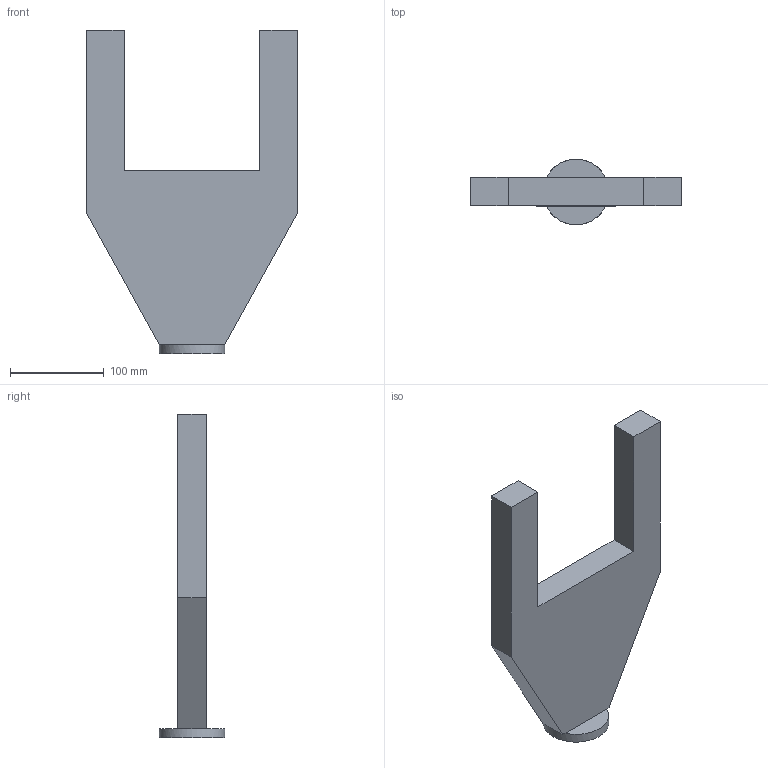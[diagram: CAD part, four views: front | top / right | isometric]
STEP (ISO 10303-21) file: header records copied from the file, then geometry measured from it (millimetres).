
FILE_DESCRIPTION (( 'STEP AP214' ), '1' );
FILE_NAME ('Tool.STEP', '2024-06-04T09:18:13', ( '' ), ( '' ), 'SwSTEP 2.0', 'SolidWorks 2020', '' );
FILE_SCHEMA (( 'AUTOMOTIVE_DESIGN' ));
Length unit declared in the file: millimetre
Products named in the file (1): Tool
Bounding box: 225 x 70 x 346 mm (x, y, z)
Volume: 1328484.5 mm3; surface area: 131039.6 mm2
Topology: 1 solids, 1 shells, 19 faces, 44 edges, 27 vertices
Faces by surface type: plane 18, cylinder 1
Full cylindrical faces by diameter (mm): 70 x1
Entity records: 558 total; most frequent: CARTESIAN_POINT 90, DIRECTION 90, ORIENTED_EDGE 86, EDGE_CURVE 43, VECTOR 36, LINE 36, VERTEX_POINT 27, AXIS2_PLACEMENT_3D 27
